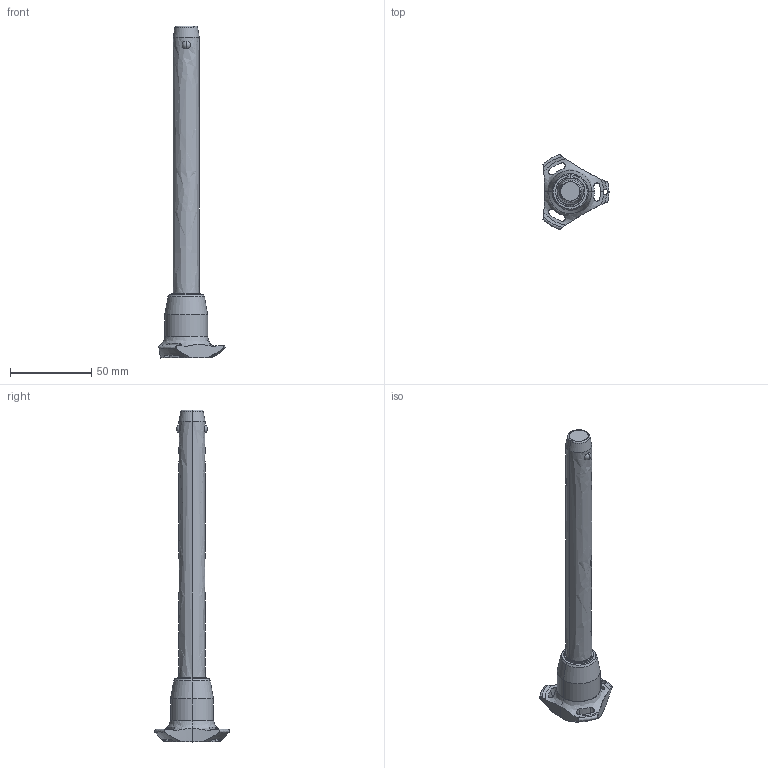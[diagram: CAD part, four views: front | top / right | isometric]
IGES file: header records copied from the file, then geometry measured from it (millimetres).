
Start section: SolidWorks IGES file using analytic representation for surfaces
Global section: file name: C:\Users\ianosborn\Desktop\QR1704_v2\QR1704_v2_20251111_IGES\QR1704.M16-150-S.igs; native system: SolidWorks 2019; preprocessor: SolidWorks 2019; author: IanOsborn; date: 251112.093326; units: millimetre
Bounding box: 40.5 x 45.88 x 203.7 mm (x, y, z)
Surface area: 14198.3 mm2 (no closed solid volume)
Topology: 0 solids, 0 shells, 65 faces, 1379 edges, 1375 vertices
Faces by surface type: revolution 50, bspline 15
